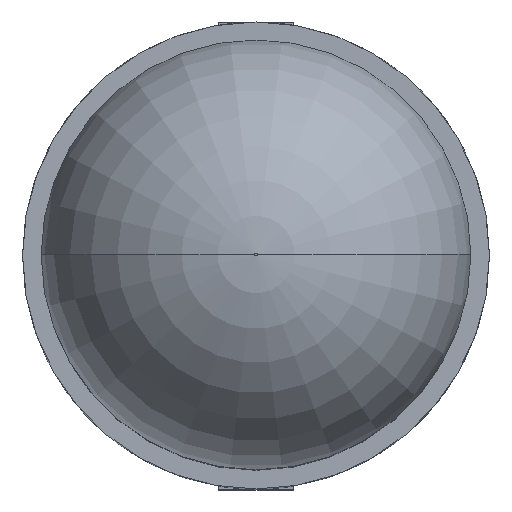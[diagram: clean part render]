
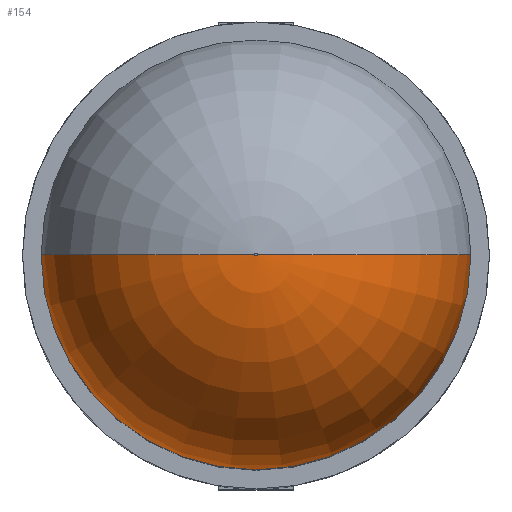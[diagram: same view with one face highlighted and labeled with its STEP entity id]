
A CAD part, top view. The second image highlights one B-rep face of the part: STEP entity #154.
In plain terms, the highlighted toroidal (fillet/blend) face has major radius 0.01 mm and minor radius 1.43 mm.
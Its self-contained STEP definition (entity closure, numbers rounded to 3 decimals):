
#51 = DIRECTION ( 'NONE',  ( 1., 0., 0. ) ) ;
#52 = DIRECTION ( 'NONE',  ( 0., 0., 1. ) ) ;
#53 = CARTESIAN_POINT ( 'NONE',  ( 0., 0., 4.75 ) ) ;
#68 = CARTESIAN_POINT ( 'NONE',  ( -0.01, 0., 3.32 ) ) ;
#75 = DIRECTION ( 'NONE',  ( 0., 1., 0. ) ) ;
#76 = DIRECTION ( 'NONE',  ( -1., 0., 0. ) ) ;
#130 = CARTESIAN_POINT ( 'NONE',  ( -0.01, 0., 4.75 ) ) ;
#131 = CARTESIAN_POINT ( 'NONE',  ( -1.44, 0., 3.32 ) ) ;
#132 = CARTESIAN_POINT ( 'NONE',  ( 1.44, 0., 3.32 ) ) ;
#134 = CARTESIAN_POINT ( 'NONE',  ( 0.01, 0., 4.75 ) ) ;
#154 = ADVANCED_FACE ( 'NONE', ( #380 ), #386, .T. ) ;
#179 = AXIS2_PLACEMENT_3D ( 'NONE', #647, #639, #641 ) ;
#183 = AXIS2_PLACEMENT_3D ( 'NONE', #581, #548, #549 ) ;
#222 = AXIS2_PLACEMENT_3D ( 'NONE', #658, #660, #662 ) ;
#225 = AXIS2_PLACEMENT_3D ( 'NONE', #68, #75, #76 ) ;
#239 = AXIS2_PLACEMENT_3D ( 'NONE', #53, #52, #51 ) ;
#245 = EDGE_CURVE ( 'NONE', #710, #712, #470, .T. ) ;
#258 = EDGE_CURVE ( 'NONE', #710, #709, #490, .T. ) ;
#276 = EDGE_CURVE ( 'NONE', #711, #709, #517, .T. ) ;
#277 = EDGE_CURVE ( 'NONE', #712, #711, #519, .T. ) ;
#304 = ORIENTED_EDGE ( 'NONE', *, *, #258, .T. ) ;
#309 = ORIENTED_EDGE ( 'NONE', *, *, #245, .F. ) ;
#331 = ORIENTED_EDGE ( 'NONE', *, *, #276, .F. ) ;
#342 = ORIENTED_EDGE ( 'NONE', *, *, #277, .F. ) ;
#359 = EDGE_LOOP ( 'NONE', ( #342, #309, #304, #331 ) ) ;
#380 = FACE_OUTER_BOUND ( 'NONE', #359, .T. ) ;
#386 = TOROIDAL_SURFACE ( 'NONE', #222, 0.01, 1.43 ) ;
#470 = CIRCLE ( 'NONE', #183, 1.44 ) ;
#490 = CIRCLE ( 'NONE', #179, 1.43 ) ;
#517 = CIRCLE ( 'NONE', #239, 0.01 ) ;
#519 = CIRCLE ( 'NONE', #225, 1.43 ) ;
#548 = DIRECTION ( 'NONE',  ( 0., 0., -1. ) ) ;
#549 = DIRECTION ( 'NONE',  ( 1., 0., 0. ) ) ;
#581 = CARTESIAN_POINT ( 'NONE',  ( 0., 0., 3.32 ) ) ;
#639 = DIRECTION ( 'NONE',  ( 0., -1., 0. ) ) ;
#641 = DIRECTION ( 'NONE',  ( 0., 0., -1. ) ) ;
#647 = CARTESIAN_POINT ( 'NONE',  ( 0.01, 0., 3.32 ) ) ;
#658 = CARTESIAN_POINT ( 'NONE',  ( 0., 0., 3.32 ) ) ;
#660 = DIRECTION ( 'NONE',  ( 0., 0., 1. ) ) ;
#662 = DIRECTION ( 'NONE',  ( 1., 0., 0. ) ) ;
#709 = VERTEX_POINT ( 'NONE', #134 ) ;
#710 = VERTEX_POINT ( 'NONE', #132 ) ;
#711 = VERTEX_POINT ( 'NONE', #130 ) ;
#712 = VERTEX_POINT ( 'NONE', #131 ) ;
